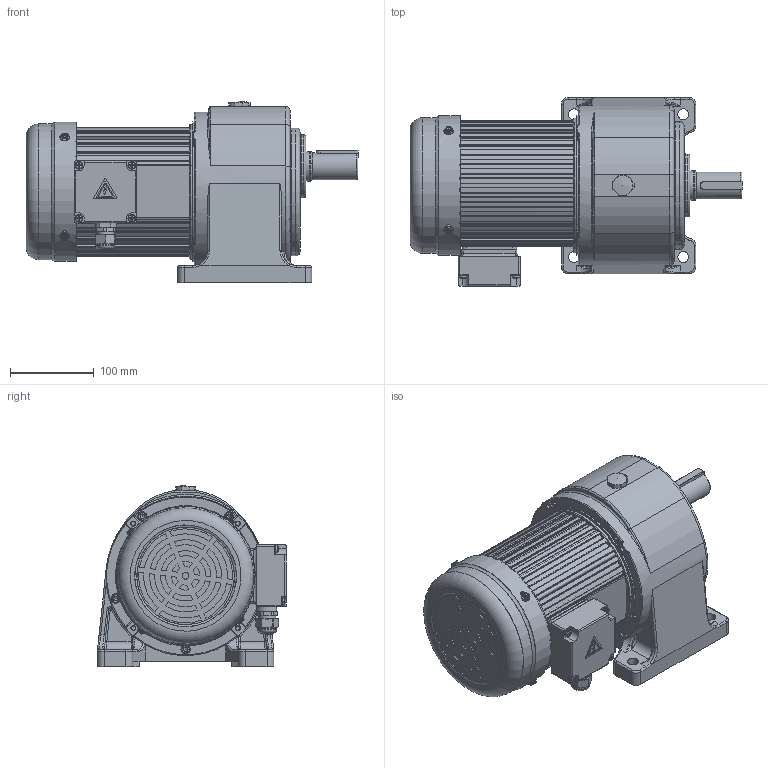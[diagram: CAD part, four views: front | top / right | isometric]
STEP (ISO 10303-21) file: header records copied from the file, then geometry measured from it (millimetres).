
FILE_DESCRIPTION(/* description */ (''),/* implementation_level */ '2;1');
FILE_NAME(/* name */ 'PST00001172_A0-小型交流减速电机-395.5_210_215.8-Φ32_70_K10-CH32-750-40S2B-G1-LD_T1.stp',/* time_stamp */ '2025-04-23T08:28:55+08:00',/* author */ (''),/* organization */ (''),/* preprocessor_version */ 'ST-DEVELOPER v18.102',/* originating_system */ 'SIEMENS PLM Software NX 2027',/* authorisation */ '');
FILE_SCHEMA (('AP203_CONFIGURATION_CONTROLLED_3D_DESIGN_OF_MECHANICAL_PARTS_AND_ASSEMBLIES_MIM_LF { 1 0 10303 403 2 1 2}'));
Length unit declared in the file: millimetre
Products named in the file (1): A0_objects
Bounding box: 395.5 x 225.25 x 215.8 mm (x, y, z)
Volume: 5038534.8 mm3; surface area: 667803.8 mm2
Topology: 4 solids, 4 shells, 4153 faces, 10630 edges, 6601 vertices
Faces by surface type: plane 2176, cylinder 1124, cone 427, bspline 190, torus 175, sphere 31, revolution 30
Full cylindrical faces by diameter (mm): 1 x1, 1.8 x1, 3 x2, 4 x1, 4.2 x17, 4.336 x4, 4.51 x4, 4.6 x4, 4.826 x6, 5 x14, 5.795 x5, 6.4 x8, 6.5 x5, 8 x1, 8.5 x4, 9 x4, 10 x9, 11 x10, 13 x4, 15.76 x1, 16.6 x1, 16.678 x1, 17 x2, 18.5 x2, 18.6 x1, 19 x3, 19.6 x1, 20 x4, 21 x1, 22.5 x1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
Entity records: 131417 total; most frequent: CARTESIAN_POINT 33290, DIRECTION 20387, ORIENTED_EDGE 20380, EDGE_CURVE 10190, AXIS2_PLACEMENT_3D 7689, VERTEX_POINT 6451, LINE 4979, VECTOR 4979
